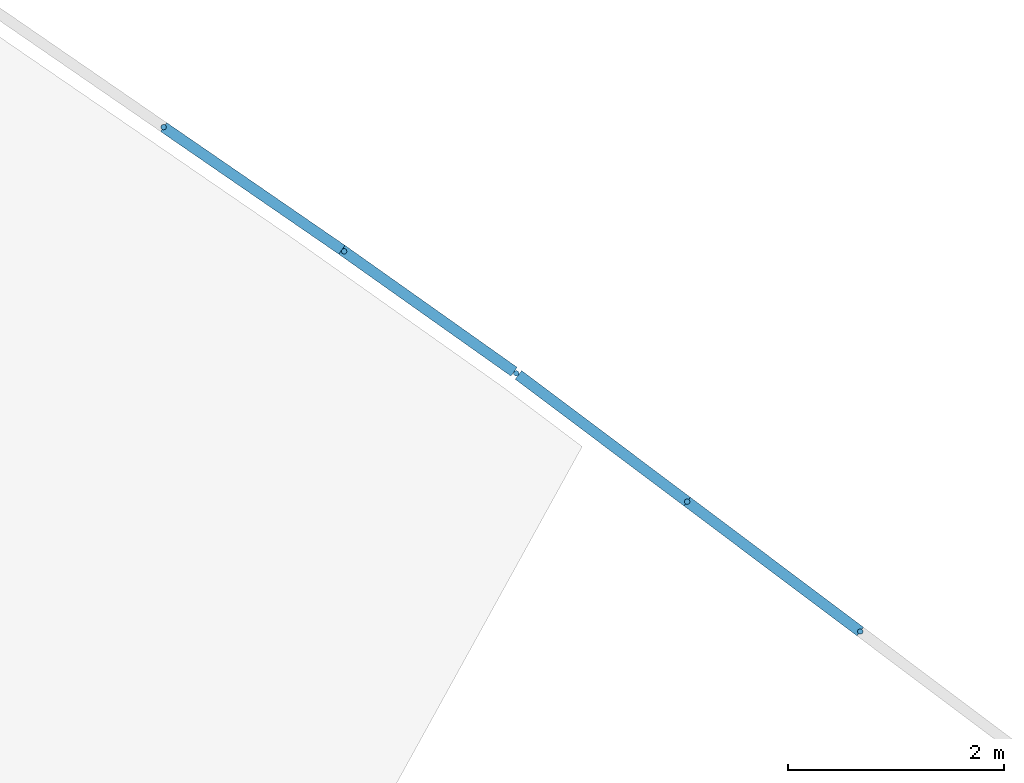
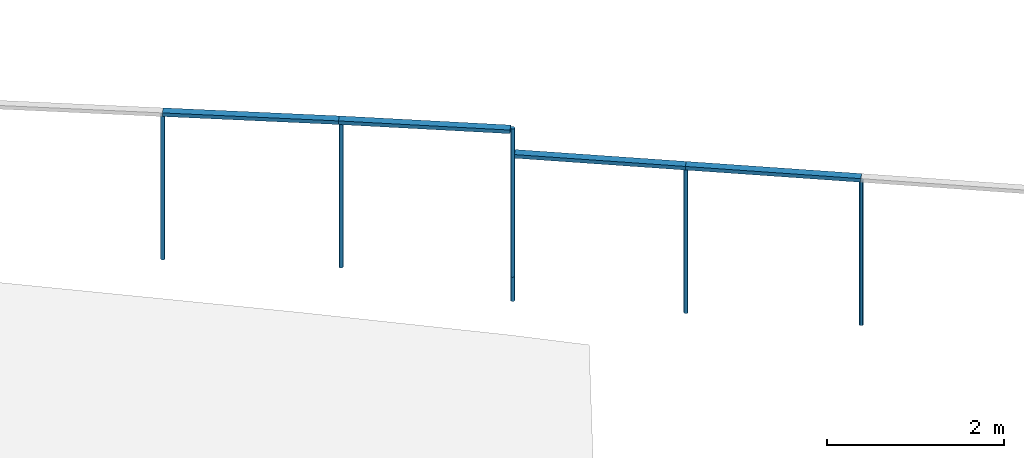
# One storey, part 6 of 12: 10 members, 3 elements without a shape of their own.
"""IFC2X3 building model written with IfcOpenShell, lengths in metres."""

import ifcopenshell
import ifcopenshell.guid

model = None  # the IFC model being written
_history = None  # IfcOwnerHistory: only IFC2X3 demands one
_inside = {}  # id of a spatial element -> (the spatial element, [elements in it])
_under = {}  # id of a project, library or spatial element -> (it, [spatial elements below it])
_declared = {}  # id of a project -> (the project, [libraries it declares])
_typed = {}  # id of a type object -> (the type object, [elements of that type])
_made_of = {}  # id of a material, layer set ... -> (it, [elements and type objects made of it])


def new_model(schema):
    """Start an empty IFC model of exactly this schema.

    Asked for "IFC4X3", IfcOpenShell would pick the latest addendum, in which some entities
    have other attributes; the version numbers below select the first issue.
    IFC2X3 requires an IfcOwnerHistory on every rooted entity: one is made here for all.
    """
    global model, _history
    if schema == "IFC4X3":
        model = ifcopenshell.file(schema_version=(4, 3, 0, 0))
    else:
        model = ifcopenshell.file(schema=schema)
    _inside.clear()
    _under.clear()
    _declared.clear()
    _typed.clear()
    _made_of.clear()
    _history = None
    if model.schema == "IFC2X3":
        org = make("IfcOrganization", Name="unknown")
        user = make(
            "IfcPersonAndOrganization",
            ThePerson=make("IfcPerson", FamilyName="unknown"),
            TheOrganization=org,
        )
        app = make(
            "IfcApplication",
            ApplicationDeveloper=org,
            Version="unknown",
            ApplicationFullName="unknown",
            ApplicationIdentifier="unknown",
        )
        _history = make(
            "IfcOwnerHistory",
            OwningUser=user,
            OwningApplication=app,
            ChangeAction="ADDED",
            CreationDate=0,
        )
    return model


def make(cls, **values):
    """One entity of the class cls with the attributes given. An attribute that is None is left unset."""
    return model.create_entity(
        cls, **{name: value for name, value in values.items() if value is not None}
    )


def entity(cls, *values):
    """Any entity or typed value of the class cls, its attributes in the order of the schema. None: left unset."""
    e = model.create_entity(cls)
    for i, value in enumerate(values):
        if value is not None:
            e[i] = value
    return e


def rooted(cls, **values):
    """An entity with a GlobalId (a new one), such as an element, a storey or a relation."""
    return make(cls, GlobalId=ifcopenshell.guid.new(), OwnerHistory=_history, **values)


def si_unit(unit_type, name, prefix=None):
    """IfcSIUnit, for example si_unit("LENGTHUNIT", "METRE", prefix="MILLI")."""
    return make("IfcSIUnit", UnitType=unit_type, Prefix=prefix, Name=name)


def converted_unit(unit_type, name, factor, base, dimensions=None, offset=None):
    """IfcConversionBasedUnit, such as the inch: factor (a typed value) times the base unit."""
    return make(
        "IfcConversionBasedUnit"
        if offset is None
        else "IfcConversionBasedUnitWithOffset",
        ConversionOffset=offset,
        Dimensions=None
        if dimensions is None
        else entity("IfcDimensionalExponents", *dimensions),
        UnitType=unit_type,
        Name=name,
        ConversionFactor=make(
            "IfcMeasureWithUnit", ValueComponent=factor, UnitComponent=base
        ),
    )


def derived_unit(unit_type, elements):
    """IfcDerivedUnit: a product of units, each with its exponent."""
    return make(
        "IfcDerivedUnit",
        Elements=[
            make("IfcDerivedUnitElement", Unit=unit, Exponent=power)
            for unit, power in elements
        ],
        UnitType=unit_type,
    )


def assignment(units):
    """IfcUnitAssignment: the units of a project."""
    return None if units is None else make("IfcUnitAssignment", Units=units)


def point(xyz):
    """IfcCartesianPoint."""
    return None if xyz is None else make("IfcCartesianPoint", Coordinates=xyz)


def direction(xyz):
    """IfcDirection."""
    return None if xyz is None else make("IfcDirection", DirectionRatios=xyz)


def frame(location, z_axis=None, x_axis=None):
    """IfcAxis2Placement3D, a coordinate frame: its origin and axes. An axis left out is left unset."""
    return make(
        "IfcAxis2Placement3D",
        Location=point(location),
        Axis=direction(z_axis),
        RefDirection=direction(x_axis),
    )


def frame_2d(location, x_axis=None):
    """IfcAxis2Placement2D, a coordinate frame in the plane: its origin and x axis."""
    return make(
        "IfcAxis2Placement2D", Location=point(location), RefDirection=direction(x_axis)
    )


def origin():
    """The frame at (0, 0, 0) with its axes left unset."""
    return frame((0.0, 0.0, 0.0))


def origin_2d_with_axis():
    """The frame at (0, 0) in the plane with the x axis (1, 0) written out."""
    return frame_2d((0.0, 0.0), x_axis=(1.0, 0.0))


def place(relative_to, where):
    """IfcLocalPlacement: puts the frame where relative to a parent placement (None: the world)."""
    return make(
        "IfcLocalPlacement", PlacementRelTo=relative_to, RelativePlacement=where
    )


def context(
    kind, dimensions, precision=None, world=None, true_north=None, identifier=None
):
    """IfcGeometricRepresentationContext, for example the 3D "Model" context."""
    return make(
        "IfcGeometricRepresentationContext",
        ContextIdentifier=identifier,
        ContextType=kind,
        CoordinateSpaceDimension=dimensions,
        Precision=precision,
        WorldCoordinateSystem=world,
        TrueNorth=true_north,
    )


def subcontext(parent, identifier, kind, view, scale=None):
    """IfcGeometricRepresentationSubContext, for example "Body" below "Model"."""
    return make(
        "IfcGeometricRepresentationSubContext",
        ContextIdentifier=identifier,
        ContextType=kind,
        ParentContext=parent,
        TargetScale=scale,
        TargetView=view,
    )


def project(units=None, contexts=None):
    """IfcProject with its units and contexts."""
    return rooted(
        "IfcProject",
        Name="project",
        RepresentationContexts=contexts,
        UnitsInContext=assignment(units),
    )


def spatial(cls, under=None, at=None, **own):
    """A site, building, storey or space (cls), placed at a placement, below another one or the project."""
    s = rooted(cls, ObjectPlacement=at, **own)
    if under is not None:
        _under.setdefault(under.id(), (under, []))[1].append(s)
    return s


def profile(cls, at=None, kind="AREA", **sizes):
    """A parametric profile (cls). Its sizes go by their IFC names, for example OverallWidth=200.0."""
    return make(cls, ProfileType=kind, Position=at, **sizes)


def rectangle(**sizes):
    """IfcRectangleProfileDef."""
    return profile("IfcRectangleProfileDef", **sizes)


def circle(**sizes):
    """IfcCircleProfileDef."""
    return profile("IfcCircleProfileDef", **sizes)


def extrude(swept, where, along, depth):
    """IfcExtrudedAreaSolid: the profile swept, set in the frame where, extruded along a direction by depth."""
    return make(
        "IfcExtrudedAreaSolid",
        SweptArea=swept,
        Position=where,
        ExtrudedDirection=direction(along),
        Depth=depth,
    )


def clip(a, b, op="DIFFERENCE"):
    """IfcBooleanClippingResult: the solid a cut by the half space b."""
    return make(
        "IfcBooleanClippingResult", Operator=op, FirstOperand=a, SecondOperand=b
    )


def halfspace(plane, agree):
    """IfcHalfSpaceSolid: all space on one side of the plane z = 0 of the frame plane."""
    return make(
        "IfcHalfSpaceSolid",
        BaseSurface=make("IfcPlane", Position=plane),
        AgreementFlag=agree,
    )


def shape(context_of_items, identifier, shape_type, items):
    """IfcShapeRepresentation: the items that make up one representation, for example the "Body"."""
    return make(
        "IfcShapeRepresentation",
        ContextOfItems=context_of_items,
        RepresentationIdentifier=identifier,
        RepresentationType=shape_type,
        Items=items,
    )


def source(mapping_origin, context_of_items, identifier, shape_type, items):
    """IfcRepresentationMap: a shape defined once, which mapped items show again and again."""
    return make(
        "IfcRepresentationMap",
        MappingOrigin=mapping_origin,
        MappedRepresentation=shape(context_of_items, identifier, shape_type, items),
    )


def transform(
    local_origin,
    x_axis=None,
    y_axis=None,
    z_axis=None,
    scale=None,
    scale2=None,
    scale3=None,
    uniform=True,
):
    """IfcCartesianTransformationOperator3D, or its non-uniform kind. x_axis, y_axis, z_axis: its Axis1, 2, 3."""
    if uniform:
        return make(
            "IfcCartesianTransformationOperator3D",
            Axis1=direction(x_axis),
            Axis2=direction(y_axis),
            LocalOrigin=point(local_origin),
            Scale=scale,
            Axis3=direction(z_axis),
        )
    return make(
        "IfcCartesianTransformationOperator3DnonUniform",
        Axis1=direction(x_axis),
        Axis2=direction(y_axis),
        LocalOrigin=point(local_origin),
        Scale=scale,
        Axis3=direction(z_axis),
        Scale2=scale2,
        Scale3=scale3,
    )


def mapped(mapping_source, mapping_target):
    """IfcMappedItem: shows the shape of a source again, moved by a transform."""
    return make(
        "IfcMappedItem", MappingSource=mapping_source, MappingTarget=mapping_target
    )


def material(Name=None, Category=None):
    """IfcMaterial."""
    return make("IfcMaterial", Name=Name, Category=Category)


def made_of(thing, what):
    """Note that an element or type object is made of a material, layer set ...; save() writes the relation."""
    if what is not None:
        _made_of.setdefault(what.id(), (what, []))[1].append(thing)
    return thing


def type_object(cls, material=None, **own):
    """A type object (cls), such as IfcWallType, which elements share."""
    return made_of(rooted(cls, **own), material)


def type_shapes(of_type, sources):
    """Give a type object the sources (RepresentationMaps) that its elements show as mapped items."""
    of_type.RepresentationMaps = sources


def element(
    cls,
    number,
    at=None,
    inside=None,
    cuts=None,
    type_object=None,
    material=None,
    context=None,
    identifier="Body",
    shape_type=None,
    held_by="IfcProductDefinitionShape",
    body=None,
    shapes=None,
    **own,
):
    """One element of the class cls, such as IfcWall. Its Tag is "e" and its number.

    at: its placement. inside: the storey or other place that contains it. cuts: it is an
    opening in that element (IfcRelVoidsElement). A single representation is given by context,
    identifier, shape_type and body (its items); several are given by shapes. held_by: the class
    of the entity that holds the representations. save() writes the other relations.
    """
    e = rooted(cls, Tag="e%d" % number, ObjectPlacement=at, **own)
    if body is not None:
        shapes = [shape(context, identifier, shape_type, body)]
    if shapes is not None:
        e.Representation = make(held_by, Representations=shapes)
    if inside is not None:
        _inside.setdefault(inside.id(), (inside, []))[1].append(e)
    if cuts is not None:
        rooted(
            "IfcRelVoidsElement", RelatingBuildingElement=cuts, RelatedOpeningElement=e
        )
    if type_object is not None:
        _typed.setdefault(type_object.id(), (type_object, []))[1].append(e)
    return made_of(e, material)


def aggregate(whole, parts):
    """IfcRelAggregates: a whole, such as a stair, and the parts it consists of."""
    return rooted("IfcRelAggregates", RelatingObject=whole, RelatedObjects=parts)


def save(model, path):
    """Write the relations noted so far, then the file.

    IfcRelAggregates (storeys below a building ...), IfcRelContainedInSpatialStructure (elements
    in a storey), IfcRelDefinesByType, IfcRelAssociatesMaterial and IfcRelDeclares: one each for
    every whole, place, type object, material and project.
    """
    for whole, parts in _under.values():
        aggregate(whole, parts)
    for where, things in _inside.values():
        rooted(
            "IfcRelContainedInSpatialStructure",
            RelatedElements=things,
            RelatingStructure=where,
        )
    for kind, things in _typed.values():
        rooted("IfcRelDefinesByType", RelatedObjects=things, RelatingType=kind)
    for what, things in _made_of.values():
        rooted("IfcRelAssociatesMaterial", RelatedObjects=things, RelatingMaterial=what)
    for by, libraries in _declared.values():
        rooted("IfcRelDeclares", RelatingContext=by, RelatedDefinitions=libraries)
    model.write(path)


model = new_model("IFC2X3")

# Units and contexts
model_context = context("Model", 3, precision=1e-05, world=origin(), true_north=direction((6.123031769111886e-17, 1.0)))
body_context = subcontext(model_context, "Body", "Model", "MODEL_VIEW")
ifc_project = project(units=[si_unit("LENGTHUNIT", "METRE"), si_unit("AREAUNIT", "SQUARE_METRE"), si_unit("VOLUMEUNIT", "CUBIC_METRE"), converted_unit("PLANEANGLEUNIT", "DEGREE", entity("IfcRatioMeasure", 0.017453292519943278), si_unit("PLANEANGLEUNIT", "RADIAN"), dimensions=[0, 0, 0, 0, 0, 0, 0]), si_unit("MASSUNIT", "GRAM", prefix="KILO"), derived_unit("MASSDENSITYUNIT", [(si_unit("MASSUNIT", "GRAM", prefix="KILO"), 1), (si_unit("LENGTHUNIT", "METRE"), -3)]), derived_unit("IONCONCENTRATIONUNIT", [(si_unit("MASSUNIT", "GRAM", prefix="KILO"), 1), (si_unit("LENGTHUNIT", "METRE"), -3)]), derived_unit("MOMENTOFINERTIAUNIT", [(si_unit("LENGTHUNIT", "METRE"), 4)]), si_unit("TIMEUNIT", "SECOND"), si_unit("FREQUENCYUNIT", "HERTZ"), si_unit("THERMODYNAMICTEMPERATUREUNIT", "DEGREE_CELSIUS"), derived_unit("THERMALTRANSMITTANCEUNIT", [(si_unit("MASSUNIT", "GRAM", prefix="KILO"), 1), (si_unit("THERMODYNAMICTEMPERATUREUNIT", "KELVIN"), -1), (si_unit("TIMEUNIT", "SECOND"), -3)]), derived_unit("THERMALCONDUCTANCEUNIT", [(si_unit("MASSUNIT", "GRAM", prefix="KILO"), 1), (si_unit("THERMODYNAMICTEMPERATUREUNIT", "KELVIN"), -1), (si_unit("TIMEUNIT", "SECOND"), -3), (si_unit("LENGTHUNIT", "METRE"), 1)]), derived_unit("VOLUMETRICFLOWRATEUNIT", [(si_unit("LENGTHUNIT", "METRE"), 3), (si_unit("TIMEUNIT", "SECOND"), -1)]), derived_unit("MASSFLOWRATEUNIT", [(si_unit("MASSUNIT", "GRAM", prefix="KILO"), 1), (si_unit("TIMEUNIT", "SECOND"), -1)]), derived_unit("ROTATIONALFREQUENCYUNIT", [(si_unit("TIMEUNIT", "SECOND"), -1)]), si_unit("ELECTRICCURRENTUNIT", "AMPERE"), si_unit("ELECTRICVOLTAGEUNIT", "VOLT"), si_unit("POWERUNIT", "WATT"), si_unit("FORCEUNIT", "NEWTON", prefix="KILO"), si_unit("ILLUMINANCEUNIT", "LUX"), si_unit("LUMINOUSFLUXUNIT", "LUMEN"), si_unit("LUMINOUSINTENSITYUNIT", "CANDELA"), derived_unit("USERDEFINED", [(si_unit("MASSUNIT", "GRAM", prefix="KILO"), -1), (si_unit("LENGTHUNIT", "METRE"), -2), (si_unit("TIMEUNIT", "SECOND"), 3), (si_unit("LUMINOUSFLUXUNIT", "LUMEN"), 1)]), derived_unit("USERDEFINED", [(si_unit("MASSUNIT", "GRAM", prefix="KILO"), 1), (si_unit("TIMEUNIT", "SECOND"), -3), (si_unit("LENGTHUNIT", "METRE"), 3), (si_unit("ELECTRICCURRENTUNIT", "AMPERE"), -2)]), derived_unit("SOUNDPOWERUNIT", [(si_unit("MASSUNIT", "GRAM", prefix="KILO"), 1), (si_unit("TIMEUNIT", "SECOND"), -3), (si_unit("LENGTHUNIT", "METRE"), 2)]), derived_unit("SOUNDPRESSUREUNIT", [(si_unit("MASSUNIT", "GRAM", prefix="KILO"), 1), (si_unit("LENGTHUNIT", "METRE"), -1), (si_unit("TIMEUNIT", "SECOND"), -2)]), derived_unit("LINEARVELOCITYUNIT", [(si_unit("LENGTHUNIT", "METRE"), 1), (si_unit("TIMEUNIT", "SECOND"), -1)]), si_unit("PRESSUREUNIT", "PASCAL"), derived_unit("USERDEFINED", [(si_unit("MASSUNIT", "GRAM", prefix="KILO"), 1), (si_unit("LENGTHUNIT", "METRE"), -2), (si_unit("TIMEUNIT", "SECOND"), -2)]), derived_unit("LINEARFORCEUNIT", [(si_unit("MASSUNIT", "GRAM", prefix="KILO"), 1), (si_unit("TIMEUNIT", "SECOND"), -2)]), derived_unit("PLANARFORCEUNIT", [(si_unit("MASSUNIT", "GRAM", prefix="KILO"), 1), (si_unit("LENGTHUNIT", "METRE"), -1), (si_unit("TIMEUNIT", "SECOND"), -2)]), derived_unit("SPECIFICHEATCAPACITYUNIT", [(si_unit("THERMODYNAMICTEMPERATUREUNIT", "KELVIN"), -1), (si_unit("LENGTHUNIT", "METRE"), 2), (si_unit("TIMEUNIT", "SECOND"), -2)]), derived_unit("HEATINGVALUEUNIT", [(si_unit("LENGTHUNIT", "METRE"), 2), (si_unit("TIMEUNIT", "SECOND"), -2)]), derived_unit("VAPORPERMEABILITYUNIT", [(si_unit("LENGTHUNIT", "METRE"), -1), (si_unit("TIMEUNIT", "SECOND"), 1)]), derived_unit("DYNAMICVISCOSITYUNIT", [(si_unit("MASSUNIT", "GRAM", prefix="KILO"), 1), (si_unit("TIMEUNIT", "SECOND"), -1), (si_unit("LENGTHUNIT", "METRE"), -1)]), derived_unit("THERMALEXPANSIONCOEFFICIENTUNIT", [(si_unit("THERMODYNAMICTEMPERATUREUNIT", "KELVIN"), -1)]), derived_unit("MODULUSOFELASTICITYUNIT", [(si_unit("MASSUNIT", "GRAM", prefix="KILO"), 1), (si_unit("LENGTHUNIT", "METRE"), -1), (si_unit("TIMEUNIT", "SECOND"), -2)]), derived_unit("ISOTHERMALMOISTURECAPACITYUNIT", [(si_unit("LENGTHUNIT", "METRE"), 3), (si_unit("MASSUNIT", "GRAM", prefix="KILO"), -1)]), derived_unit("MOISTUREDIFFUSIVITYUNIT", [(si_unit("TIMEUNIT", "SECOND"), -1), (si_unit("LENGTHUNIT", "METRE"), 2)])], contexts=[model_context])

# Site, building, storey
site_placement = place(None, origin())
site = spatial("IfcSite", under=ifc_project, at=site_placement, Name="Superficie", CompositionType="ELEMENT")
building_placement = place(site_placement, frame((0.0, 0.0, 235.0), z_axis=(0.0, 0.0, 1.0), x_axis=(-0.7996477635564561, 0.6004693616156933, 0.0)))
building = spatial("IfcBuilding", under=site, at=building_placement, CompositionType="ELEMENT")
storey_placement = place(building_placement, frame((0.0, 0.0, -4.459999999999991)))
storey = spatial("IfcBuildingStorey", under=building, at=storey_placement, Name="PS1- Vestuari", CompositionType="ELEMENT", Elevation=-4.459999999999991)

# Curtain wall, members
curtain_wall_type = type_object("IfcCurtainWallType", Name="Muro cortina:SER EXT- Tanca exterior", PredefinedType="NOTDEFINED")
curtain_wall_1_placement = place(storey_placement, frame((0.0, 0.0, 4.459999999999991)))
curtain_wall_1 = element("IfcCurtainWall", 1, at=curtain_wall_1_placement, inside=storey, type_object=curtain_wall_type, Name="Muro cortina:SER EXT- Tanca exterior", ObjectType="Muro cortina:SER EXT- Tanca exterior")
ifc_material_1 = material(Name="Acero inoxidable")
member_type_1 = type_object("IfcMemberType", Name="Montante circular:Perfil Tanca exterior", PredefinedType="MULLION", material=ifc_material_1)
shared_shape_1 = source(origin(), body_context, "Body", "SweptSolid", [
    extrude(circle(Radius=0.025, at=frame_2d((-2.1149748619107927e-18, -4.0388614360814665e-17), x_axis=(1.0, 0.0))), frame((0.0, 0.0, -2.0), z_axis=(0.0, 0.0, 1.0), x_axis=(-1.0, 0.0, 0.0)), (0.0, 0.0, 1.0), 1.9999999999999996),
])
type_shapes(member_type_1, [shared_shape_1])
member_1_placement = place(curtain_wall_1_placement, frame((51.930614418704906, -66.55949841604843, -5.509999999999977), z_axis=(0.0, 0.0, -1.0), x_axis=(-1.0, 0.0, 0.0)))
member_1 = element("IfcMember", 2, at=member_1_placement, type_object=member_type_1, material=ifc_material_1, Name="Montante circular:Perfil Tanca exterior", ObjectType="Montante circular:Perfil Tanca exterior", context=body_context, shape_type="MappedRepresentation", body=[
    mapped(shared_shape_1, transform((0.0, 0.0, 0.0), scale=1.0)),
])
member_2_placement = place(curtain_wall_1_placement, frame((49.93061441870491, -66.55949841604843, -5.509999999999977), z_axis=(0.0, 0.0, -1.0), x_axis=(-1.0, 0.0, 0.0)))
member_2 = element("IfcMember", 3, at=member_2_placement, type_object=member_type_1, material=ifc_material_1, Name="Montante circular:Perfil Tanca exterior", ObjectType="Montante circular:Perfil Tanca exterior", context=body_context, shape_type="MappedRepresentation", body=[
    mapped(shared_shape_1, transform((0.0, 0.0, 0.0), scale=1.0)),
])

# Curtain wall, member
curtain_wall_2_placement = place(storey_placement, frame((0.0, 0.0, 4.459999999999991)))
curtain_wall_2 = element("IfcCurtainWall", 4, at=curtain_wall_2_placement, inside=storey, type_object=curtain_wall_type, Name="Muro cortina:SER EXT- Tanca exterior", ObjectType="Muro cortina:SER EXT- Tanca exterior")
member_3_placement = place(curtain_wall_2_placement, frame((57.87814632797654, -66.42202098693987, -5.174999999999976), z_axis=(0.0, 0.0, -1.0), x_axis=(-0.9991481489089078, -0.041267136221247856, 0.0)))
member_3 = element("IfcMember", 5, at=member_3_placement, type_object=member_type_1, material=ifc_material_1, Name="Montante circular:Perfil Tanca exterior", ObjectType="Montante circular:Perfil Tanca exterior", context=body_context, shape_type="MappedRepresentation", body=[
    mapped(shared_shape_1, transform((0.0, 0.0, 0.0), scale=1.0)),
])

# Curtain wall, members
curtain_wall_3_placement = place(storey_placement, frame((0.0, 0.0, 4.459999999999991)))
curtain_wall_3 = element("IfcCurtainWall", 6, at=curtain_wall_3_placement, inside=storey, type_object=curtain_wall_type, Name="Muro cortina:SER EXT- Tanca exterior", ObjectType="Muro cortina:SER EXT- Tanca exterior")
member_type_2 = type_object("IfcMemberType", Name="Montante circular:Perfil Tanca exterior", PredefinedType="MULLION", material=ifc_material_1)
shared_shape_2 = source(origin(), body_context, "Body", "SweptSolid", [
    extrude(circle(Radius=0.025, at=frame_2d((-1.304992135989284e-31, 4.038861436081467e-17), x_axis=(1.0, 0.0))), frame((-0.025, 0.0, -2.0)), (0.0, 0.0, 1.0), 1.9999999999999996),
])
type_shapes(member_type_2, [shared_shape_2])
member_4_placement = place(curtain_wall_3_placement, frame((55.87985003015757, -66.50455525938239, -3.1749999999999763), z_axis=(0.0, 0.0, 1.0), x_axis=(0.99961296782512, 0.027819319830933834, 0.0)))
member_4 = element("IfcMember", 7, at=member_4_placement, type_object=member_type_2, material=ifc_material_1, Name="Montante circular:Perfil Tanca exterior", ObjectType="Montante circular:Perfil Tanca exterior", context=body_context, shape_type="MappedRepresentation", body=[
    mapped(shared_shape_2, transform((0.0, 0.0, 0.0), scale=1.0)),
])
member_type_3 = type_object("IfcMemberType", Name="Montante circular:Perfil Tanca exterior", PredefinedType="MULLION", material=ifc_material_1)
shared_shape_3 = source(origin(), body_context, "Body", "SweptSolid", [
    extrude(circle(Radius=0.025, at=frame_2d((1.3661718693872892e-31, -4.46185640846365e-17), x_axis=(1.0, 0.0))), frame((-0.025, 0.0, -2.0499999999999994), z_axis=(0.0, 0.0, 1.0), x_axis=(-1.0, 0.0, 0.0)), (0.0, 0.0, 1.0), 2.0499999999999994),
])
type_shapes(member_type_3, [shared_shape_3])
member_5_placement = place(curtain_wall_3_placement, frame((53.88062409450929, -66.56019389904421, -5.174999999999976), z_axis=(0.0, 0.0, -1.0), x_axis=(-0.99961296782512, -0.027819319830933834, 0.0)))
member_5 = element("IfcMember", 8, at=member_5_placement, type_object=member_type_3, material=ifc_material_1, Name="Montante circular:Perfil Tanca exterior", ObjectType="Montante circular:Perfil Tanca exterior", context=body_context, shape_type="MappedRepresentation", body=[
    mapped(shared_shape_3, transform((0.0, 0.0, 0.0), scale=1.0)),
])

# Member
member_type_4 = type_object("IfcMemberType", Name="Montante circular:Perfil Tanca exterior", PredefinedType="MULLION", material=ifc_material_1)
shared_shape_4 = source(origin(), body_context, "Body", "SweptSolid", [
    extrude(circle(Radius=0.025, at=frame_2d((-1.304992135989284e-31, 4.038861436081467e-17), x_axis=(1.0, 0.0))), frame((-0.025, 0.0, -2.0500000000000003)), (0.0, 0.0, 1.0), 2.0500000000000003),
])
type_shapes(member_type_4, [shared_shape_4])
member_6_placement = place(curtain_wall_1_placement, frame((53.930614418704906, -66.55949841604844, -3.459999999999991)))
member_6 = element("IfcMember", 9, at=member_6_placement, type_object=member_type_4, material=ifc_material_1, Name="Montante circular:Perfil Tanca exterior", ObjectType="Montante circular:Perfil Tanca exterior", context=body_context, shape_type="MappedRepresentation", body=[
    mapped(shared_shape_4, transform((0.0, 0.0, 0.0), scale=1.0)),
])

ifc_material_2 = material(Name="_Formigó- Solera- T1- STR")
member_type_5 = type_object("IfcMemberType", Name="Montante rectangular:Montante rectangular 100x50", PredefinedType="MULLION", material=ifc_material_2)
shared_shape_5 = source(origin(), body_context, "Body", "SweptSolid", [
    extrude(rectangle(XDim=0.1, YDim=0.05000000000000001, at=origin_2d_with_axis()), frame((-0.025000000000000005, 0.0, -1.9500000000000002), z_axis=(0.0, 0.0, 1.0), x_axis=(0.0, -1.0, 0.0)), (0.0, 0.0, 1.0), 1.9500000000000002),
])
type_shapes(member_type_5, [shared_shape_5])
member_7_placement = place(curtain_wall_1_placement, frame((51.930614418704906, -66.55949841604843, -3.459999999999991), z_axis=(-1.0, 0.0, 0.0), x_axis=(0.0, 0.0, 1.0)))
member_7 = element("IfcMember", 10, at=member_7_placement, type_object=member_type_5, material=ifc_material_2, Name="Montante rectangular:Montante rectangular 100x50", ObjectType="Montante rectangular:Montante rectangular 100x50", context=body_context, shape_type="MappedRepresentation", body=[
    mapped(shared_shape_5, transform((0.0, 0.0, 0.0), scale=1.0)),
])

member_type_6 = type_object("IfcMemberType", Name="Montante rectangular:Montante rectangular 100x50", PredefinedType="MULLION", material=ifc_material_2)
shared_shape_6 = source(origin(), body_context, "Body", "SweptSolid", [
    extrude(rectangle(XDim=0.1, YDim=0.05000000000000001, at=origin_2d_with_axis()), frame((-0.025000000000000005, 0.0, -2.0), z_axis=(0.0, 0.0, 1.0), x_axis=(0.0, -1.0, 0.0)), (0.0, 0.0, 1.0), 2.0000000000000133),
])
type_shapes(member_type_6, [shared_shape_6])
member_8_placement = place(curtain_wall_1_placement, frame((49.93061441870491, -66.55949841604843, -3.459999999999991), z_axis=(-1.0, 0.0, 0.0), x_axis=(0.0, 0.0, 1.0)))
member_8 = element("IfcMember", 11, at=member_8_placement, type_object=member_type_6, material=ifc_material_2, Name="Montante rectangular:Montante rectangular 100x50", ObjectType="Montante rectangular:Montante rectangular 100x50", context=body_context, shape_type="MappedRepresentation", body=[
    mapped(shared_shape_6, transform((0.0, 0.0, 0.0), scale=1.0)),
])

aggregate(curtain_wall_1, [member_6, member_1, member_2, member_7, member_8])

member_type_7 = type_object("IfcMemberType", Name="Montante rectangular:Montante rectangular 100x50", PredefinedType="MULLION", material=ifc_material_2)
shared_shape_7 = source(origin(), body_context, "Body", "SweptSolid", [
    clip(extrude(rectangle(XDim=0.1, YDim=0.05000000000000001, at=origin_2d_with_axis()), frame((-0.025000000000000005, 0.0, -1.950336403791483), z_axis=(0.0, 0.0, 1.0), x_axis=(0.0, -1.0, 0.0)), (0.0, 0.0, 1.0), 1.950336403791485), halfspace(frame((-0.3048, 0.0, -1.9499999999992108), z_axis=(0.0, 0.006727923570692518, -0.9999773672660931), x_axis=(0.0, 0.9999773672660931, 0.006727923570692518)), False)),
])
type_shapes(member_type_7, [shared_shape_7])
member_9_placement = place(curtain_wall_3_placement, frame((53.930604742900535, -66.55880293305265, -3.124999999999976), z_axis=(-0.99961296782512, -0.027819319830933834, 0.0), x_axis=(0.0, 0.0, 1.0)))
member_9 = element("IfcMember", 12, at=member_9_placement, type_object=member_type_7, material=ifc_material_2, Name="Montante rectangular:Montante rectangular 100x50", ObjectType="Montante rectangular:Montante rectangular 100x50", context=body_context, shape_type="MappedRepresentation", body=[
    mapped(shared_shape_7, transform((0.0, 0.0, 0.0), scale=1.0)),
])

aggregate(curtain_wall_3, [member_4, member_5, member_9])

member_type_8 = type_object("IfcMemberType", Name="Montante rectangular:Montante rectangular 100x50", PredefinedType="MULLION", material=ifc_material_2)
shared_shape_8 = source(origin(), body_context, "Body", "SweptSolid", [
    clip(extrude(rectangle(XDim=0.1, YDim=0.05000000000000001, at=origin_2d_with_axis()), frame((-0.025000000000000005, 0.0, -2.0), z_axis=(0.0, 0.0, 1.0), x_axis=(0.0, -1.0, 0.0)), (0.0, 0.0, 1.0), 2.000336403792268), halfspace(frame((-0.3048, 0.0, 0.0), z_axis=(0.0, 0.006727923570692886, 0.9999773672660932), x_axis=(0.0, 0.9999773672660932, -0.006727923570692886)), False)),
])
type_shapes(member_type_8, [shared_shape_8])
member_10_placement = place(curtain_wall_2_placement, frame((55.87985003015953, -66.50455525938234, -3.124999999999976), z_axis=(-0.9991481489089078, -0.0412671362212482, 0.0), x_axis=(0.0, 0.0, 1.0)))
member_10 = element("IfcMember", 13, at=member_10_placement, type_object=member_type_8, material=ifc_material_2, Name="Montante rectangular:Montante rectangular 100x50", ObjectType="Montante rectangular:Montante rectangular 100x50", context=body_context, shape_type="MappedRepresentation", body=[
    mapped(shared_shape_8, transform((0.0, 0.0, 0.0), scale=1.0)),
])

aggregate(curtain_wall_2, [member_3, member_10])

save(model, "model.ifc")
